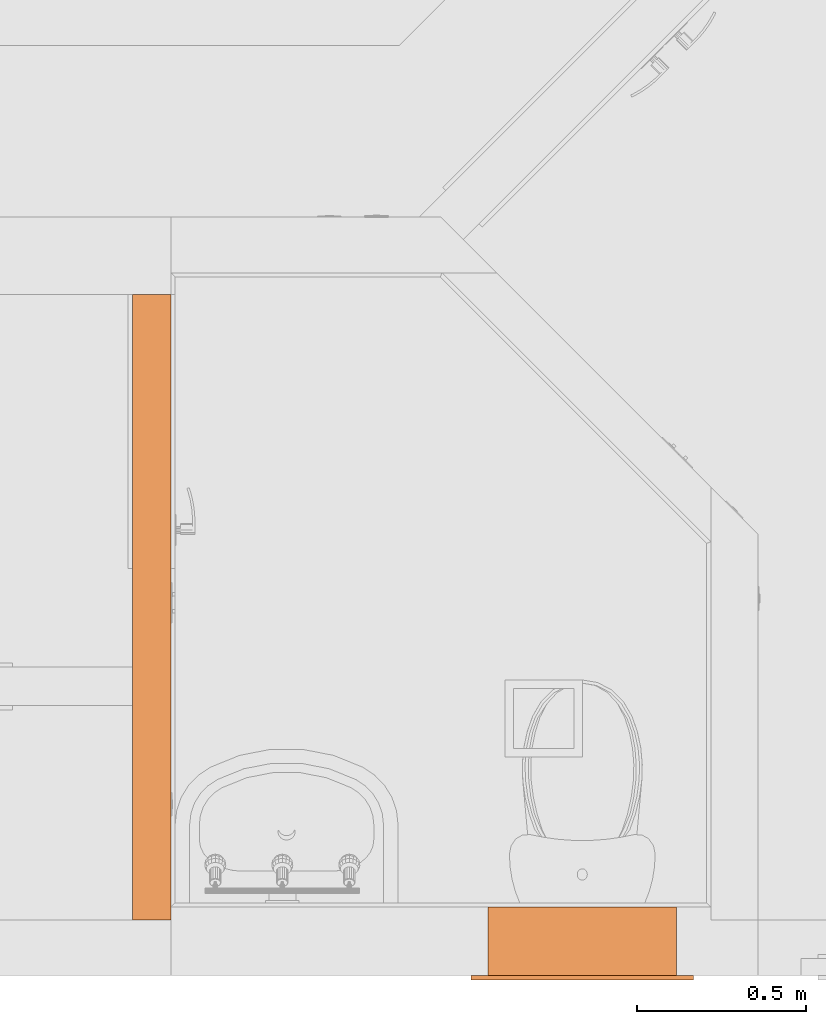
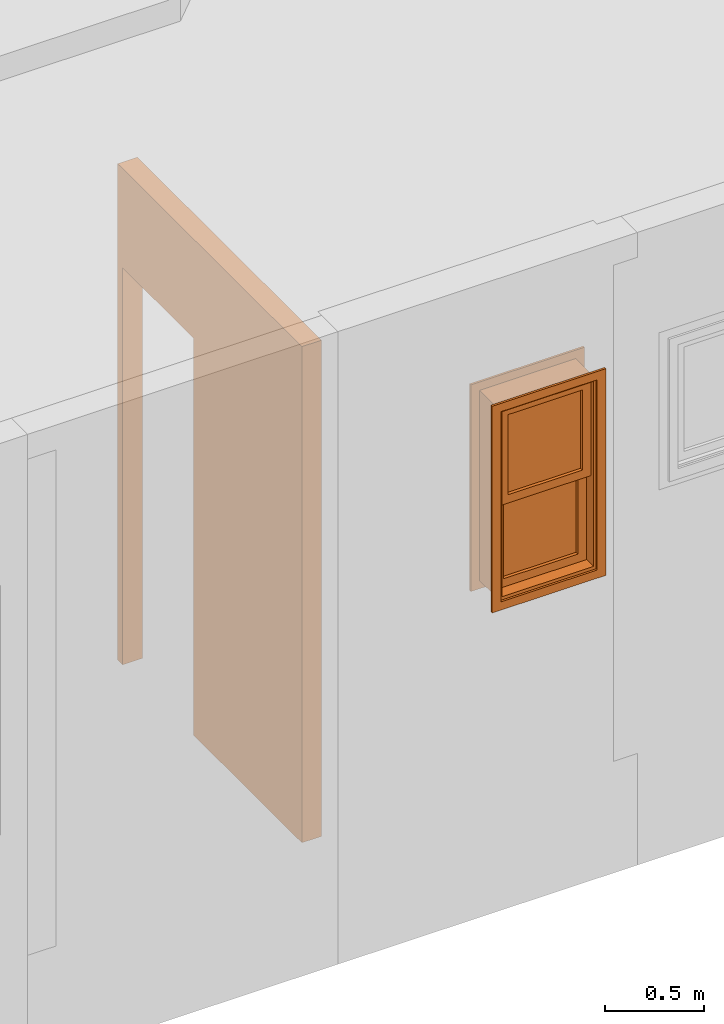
# One storey, part 80 of 103: 2 proxies.
"""IFC2X3 building model written with IfcOpenShell, lengths in inches."""

import ifcopenshell
import ifcopenshell.guid

model = None  # the IFC model being written
_history = None  # IfcOwnerHistory: only IFC2X3 demands one
_inside = {}  # id of a spatial element -> (the spatial element, [elements in it])
_under = {}  # id of a project, library or spatial element -> (it, [spatial elements below it])
_declared = {}  # id of a project -> (the project, [libraries it declares])
_typed = {}  # id of a type object -> (the type object, [elements of that type])
_made_of = {}  # id of a material, layer set ... -> (it, [elements and type objects made of it])


def new_model(schema):
    """Start an empty IFC model of exactly this schema.

    Asked for "IFC4X3", IfcOpenShell would pick the latest addendum, in which some entities
    have other attributes; the version numbers below select the first issue.
    IFC2X3 requires an IfcOwnerHistory on every rooted entity: one is made here for all.
    """
    global model, _history
    if schema == "IFC4X3":
        model = ifcopenshell.file(schema_version=(4, 3, 0, 0))
    else:
        model = ifcopenshell.file(schema=schema)
    _inside.clear()
    _under.clear()
    _declared.clear()
    _typed.clear()
    _made_of.clear()
    _history = None
    if model.schema == "IFC2X3":
        org = make("IfcOrganization", Name="unknown")
        user = make(
            "IfcPersonAndOrganization",
            ThePerson=make("IfcPerson", FamilyName="unknown"),
            TheOrganization=org,
        )
        app = make(
            "IfcApplication",
            ApplicationDeveloper=org,
            Version="unknown",
            ApplicationFullName="unknown",
            ApplicationIdentifier="unknown",
        )
        _history = make(
            "IfcOwnerHistory",
            OwningUser=user,
            OwningApplication=app,
            ChangeAction="ADDED",
            CreationDate=0,
        )
    return model


def make(cls, **values):
    """One entity of the class cls with the attributes given. An attribute that is None is left unset."""
    return model.create_entity(
        cls, **{name: value for name, value in values.items() if value is not None}
    )


def entity(cls, *values):
    """Any entity or typed value of the class cls, its attributes in the order of the schema. None: left unset."""
    e = model.create_entity(cls)
    for i, value in enumerate(values):
        if value is not None:
            e[i] = value
    return e


def rooted(cls, **values):
    """An entity with a GlobalId (a new one), such as an element, a storey or a relation."""
    return make(cls, GlobalId=ifcopenshell.guid.new(), OwnerHistory=_history, **values)


def si_unit(unit_type, name, prefix=None):
    """IfcSIUnit, for example si_unit("LENGTHUNIT", "METRE", prefix="MILLI")."""
    return make("IfcSIUnit", UnitType=unit_type, Prefix=prefix, Name=name)


def converted_unit(unit_type, name, factor, base, dimensions=None, offset=None):
    """IfcConversionBasedUnit, such as the inch: factor (a typed value) times the base unit."""
    return make(
        "IfcConversionBasedUnit"
        if offset is None
        else "IfcConversionBasedUnitWithOffset",
        ConversionOffset=offset,
        Dimensions=None
        if dimensions is None
        else entity("IfcDimensionalExponents", *dimensions),
        UnitType=unit_type,
        Name=name,
        ConversionFactor=make(
            "IfcMeasureWithUnit", ValueComponent=factor, UnitComponent=base
        ),
    )


def derived_unit(unit_type, elements):
    """IfcDerivedUnit: a product of units, each with its exponent."""
    return make(
        "IfcDerivedUnit",
        Elements=[
            make("IfcDerivedUnitElement", Unit=unit, Exponent=power)
            for unit, power in elements
        ],
        UnitType=unit_type,
    )


def money_unit(currency):
    """IfcMonetaryUnit."""
    return make("IfcMonetaryUnit", Currency=currency)


def assignment(units):
    """IfcUnitAssignment: the units of a project."""
    return None if units is None else make("IfcUnitAssignment", Units=units)


def point(xyz):
    """IfcCartesianPoint."""
    return None if xyz is None else make("IfcCartesianPoint", Coordinates=xyz)


def direction(xyz):
    """IfcDirection."""
    return None if xyz is None else make("IfcDirection", DirectionRatios=xyz)


def frame(location, z_axis=None, x_axis=None):
    """IfcAxis2Placement3D, a coordinate frame: its origin and axes. An axis left out is left unset."""
    return make(
        "IfcAxis2Placement3D",
        Location=point(location),
        Axis=direction(z_axis),
        RefDirection=direction(x_axis),
    )


def origin_with_axes():
    """The frame at (0, 0, 0) with the z axis (0, 0, 1) and the x axis (1, 0, 0) written out."""
    return frame((0.0, 0.0, 0.0), z_axis=(0.0, 0.0, 1.0), x_axis=(1.0, 0.0, 0.0))


def place(relative_to, where):
    """IfcLocalPlacement: puts the frame where relative to a parent placement (None: the world)."""
    return make(
        "IfcLocalPlacement", PlacementRelTo=relative_to, RelativePlacement=where
    )


def context(
    kind, dimensions, precision=None, world=None, true_north=None, identifier=None
):
    """IfcGeometricRepresentationContext, for example the 3D "Model" context."""
    return make(
        "IfcGeometricRepresentationContext",
        ContextIdentifier=identifier,
        ContextType=kind,
        CoordinateSpaceDimension=dimensions,
        Precision=precision,
        WorldCoordinateSystem=world,
        TrueNorth=true_north,
    )


def subcontext(parent, identifier, kind, view, scale=None):
    """IfcGeometricRepresentationSubContext, for example "Body" below "Model"."""
    return make(
        "IfcGeometricRepresentationSubContext",
        ContextIdentifier=identifier,
        ContextType=kind,
        ParentContext=parent,
        TargetScale=scale,
        TargetView=view,
    )


def project(units=None, contexts=None):
    """IfcProject with its units and contexts."""
    return rooted(
        "IfcProject",
        Name="project",
        RepresentationContexts=contexts,
        UnitsInContext=assignment(units),
    )


def spatial(cls, under=None, at=None, **own):
    """A site, building, storey or space (cls), placed at a placement, below another one or the project."""
    s = rooted(cls, ObjectPlacement=at, **own)
    if under is not None:
        _under.setdefault(under.id(), (under, []))[1].append(s)
    return s


def faces_of(points, faces, orient=None, outer=None):
    """IfcFace entities. A face is a list of loops; a loop is a list of indices into points, from 0.

    orient and outer hold one flag for each loop. By default every Orientation is true, the
    first loop of a face is its IfcFaceOuterBound and the others are IfcFaceBound.
    """
    made = []
    for i, loops in enumerate(faces):
        bounds = []
        for j, loop in enumerate(loops):
            is_outer = j == 0 if outer is None else outer[i][j]
            bounds.append(
                make(
                    "IfcFaceOuterBound" if is_outer else "IfcFaceBound",
                    Bound=make("IfcPolyLoop", Polygon=[points[k] for k in loop]),
                    Orientation=True if orient is None else orient[i][j],
                )
            )
        made.append(make("IfcFace", Bounds=bounds))
    return made


def faceted_brep(points, faces, orient=None, outer=None, voids=None):
    """IfcFacetedBrep: a solid bounded by flat faces; with voids (closed shells), ...WithVoids."""
    shared = [point(p) for p in points]
    hull = make("IfcClosedShell", CfsFaces=faces_of(shared, faces, orient, outer))
    if voids is None:
        return make("IfcFacetedBrep", Outer=hull)
    return make(
        "IfcFacetedBrepWithVoids",
        Outer=hull,
        Voids=[
            make(cls, CfsFaces=faces_of(shared, fs, o, b)) for cls, fs, o, b in voids
        ],
    )


def shape(context_of_items, identifier, shape_type, items):
    """IfcShapeRepresentation: the items that make up one representation, for example the "Body"."""
    return make(
        "IfcShapeRepresentation",
        ContextOfItems=context_of_items,
        RepresentationIdentifier=identifier,
        RepresentationType=shape_type,
        Items=items,
    )


def material(Name=None, Category=None):
    """IfcMaterial."""
    return make("IfcMaterial", Name=Name, Category=Category)


def made_of(thing, what):
    """Note that an element or type object is made of a material, layer set ...; save() writes the relation."""
    if what is not None:
        _made_of.setdefault(what.id(), (what, []))[1].append(thing)
    return thing


def type_object(cls, material=None, **own):
    """A type object (cls), such as IfcWallType, which elements share."""
    return made_of(rooted(cls, **own), material)


def element(
    cls,
    number,
    at=None,
    inside=None,
    cuts=None,
    type_object=None,
    material=None,
    context=None,
    identifier="Body",
    shape_type=None,
    held_by="IfcProductDefinitionShape",
    body=None,
    shapes=None,
    **own,
):
    """One element of the class cls, such as IfcWall. Its Tag is "e" and its number.

    at: its placement. inside: the storey or other place that contains it. cuts: it is an
    opening in that element (IfcRelVoidsElement). A single representation is given by context,
    identifier, shape_type and body (its items); several are given by shapes. held_by: the class
    of the entity that holds the representations. save() writes the other relations.
    """
    e = rooted(cls, Tag="e%d" % number, ObjectPlacement=at, **own)
    if body is not None:
        shapes = [shape(context, identifier, shape_type, body)]
    if shapes is not None:
        e.Representation = make(held_by, Representations=shapes)
    if inside is not None:
        _inside.setdefault(inside.id(), (inside, []))[1].append(e)
    if cuts is not None:
        rooted(
            "IfcRelVoidsElement", RelatingBuildingElement=cuts, RelatedOpeningElement=e
        )
    if type_object is not None:
        _typed.setdefault(type_object.id(), (type_object, []))[1].append(e)
    return made_of(e, material)


def aggregate(whole, parts):
    """IfcRelAggregates: a whole, such as a stair, and the parts it consists of."""
    return rooted("IfcRelAggregates", RelatingObject=whole, RelatedObjects=parts)


def save(model, path):
    """Write the relations noted so far, then the file.

    IfcRelAggregates (storeys below a building ...), IfcRelContainedInSpatialStructure (elements
    in a storey), IfcRelDefinesByType, IfcRelAssociatesMaterial and IfcRelDeclares: one each for
    every whole, place, type object, material and project.
    """
    for whole, parts in _under.values():
        aggregate(whole, parts)
    for where, things in _inside.values():
        rooted(
            "IfcRelContainedInSpatialStructure",
            RelatedElements=things,
            RelatingStructure=where,
        )
    for kind, things in _typed.values():
        rooted("IfcRelDefinesByType", RelatedObjects=things, RelatingType=kind)
    for what, things in _made_of.values():
        rooted("IfcRelAssociatesMaterial", RelatedObjects=things, RelatingMaterial=what)
    for by, libraries in _declared.values():
        rooted("IfcRelDeclares", RelatingContext=by, RelatedDefinitions=libraries)
    model.write(path)


model = new_model("IFC2X3")

# Units and contexts
model_context = context("Model", 3, precision=0.00039370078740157, world=origin_with_axes(), true_north=direction((0.0, 1.0)))
plan_context = context("Plan", 3, precision=0.00039370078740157, world=origin_with_axes(), true_north=direction((0.0, 1.0)))
body_context = subcontext(model_context, "Body", "Model", "MODEL_VIEW")
ifc_project = project(units=[converted_unit("LENGTHUNIT", "INCH", entity("IfcPositiveLengthMeasure", 0.0254), si_unit("LENGTHUNIT", "METRE"), dimensions=[1, 0, 0, 0, 0, 0, 0]), converted_unit("AREAUNIT", "SQUARE_FOOT", entity("IfcPositiveLengthMeasure", 0.09290304), si_unit("AREAUNIT", "SQUARE_METRE"), dimensions=[2, 0, 0, 0, 0, 0, 0]), si_unit("PLANEANGLEUNIT", "RADIAN"), si_unit("SOLIDANGLEUNIT", "STERADIAN"), money_unit("USD"), converted_unit("TIMEUNIT", "Year", entity("IfcTimeMeasure", 31557600.0), si_unit("TIMEUNIT", "SECOND"), dimensions=[0, 0, 1, 0, 0, 0, 0]), si_unit("MASSUNIT", "GRAM", prefix="KILO"), si_unit("THERMODYNAMICTEMPERATUREUNIT", "DEGREE_CELSIUS"), si_unit("LUMINOUSINTENSITYUNIT", "LUMEN"), si_unit("ENERGYUNIT", "JOULE", prefix="MEGA"), derived_unit("SPECIFICHEATCAPACITYUNIT", [(si_unit("ENERGYUNIT", "JOULE"), 1), (si_unit("MASSUNIT", "GRAM", prefix="KILO"), -1), (si_unit("THERMODYNAMICTEMPERATUREUNIT", "KELVIN"), -1)])], contexts=[model_context, plan_context])

# Site, building, storey
site_placement = place(None, origin_with_axes())
site = spatial("IfcSite", under=ifc_project, at=site_placement, Name="Site", CompositionType="ELEMENT")
building_placement = place(site_placement, origin_with_axes())
building = spatial("IfcBuilding", under=site, at=building_placement, Name="Building", CompositionType="ELEMENT")
storey_placement = place(building_placement, frame((0.0, 0.0, 127.9999999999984), z_axis=(0.0, 0.0, 1.0), x_axis=(1.0, 0.0, 0.0)))
storey = spatial("IfcBuildingStorey", under=building, at=storey_placement, Name="Second Floor", CompositionType="ELEMENT", Elevation=128.0)

# Proxies
ifc_material = material(Name="Generic - Structural")
building_element_proxy_type_1 = type_object("IfcBuildingElementProxyType", Name="Generic - Structural 4 1/2\"", PredefinedType="NOTDEFINED")
proxy_1_placement = place(storey_placement, frame((315.499999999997, 6.499999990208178, 0.0), z_axis=(0.0, 0.0, 1.0), x_axis=(0.0, 1.0, 0.0)))
element("IfcBuildingElementProxy", 1, at=proxy_1_placement, inside=storey, type_object=building_element_proxy_type_1, material=ifc_material, Name="SW - 082", context=body_context, shape_type="Brep", body=[
    faceted_brep([(43.00000000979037, 0.0, 0.0), (43.00000000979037, 0.0, 95.9999999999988), (71.00000000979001, 0.0, 95.9999999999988), (71.00000000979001, 0.0, 0.0), (73.00000000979, 0.0, 0.0), (73.00000000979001, 0.0, 119.9999999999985), (0.0, 0.0, 119.9999999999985), (0.0, 0.0, 0.0), (43.00000000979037, 4.499999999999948, 0.0), (43.00000000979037, 4.499999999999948, 95.9999999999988), (71.00000000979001, 4.499999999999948, 95.9999999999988), (71.00000000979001, 4.499999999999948, 0.0), (73.00000000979, 4.499999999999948, 0.0), (73.00000000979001, 4.499999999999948, 119.9999999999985), (9.790545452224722e-09, 4.499999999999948, 119.9999999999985), (9.790545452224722e-09, 4.499999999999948, 0.0)], [[[0, 1, 2, 3, 4, 5, 6, 7]], [[1, 0, 8, 9]], [[2, 1, 9, 10]], [[3, 2, 10, 11]], [[3, 11, 12, 4]], [[13, 5, 4, 12]], [[5, 13, 14, 6]], [[7, 6, 14, 15]], [[8, 0, 7, 15]], [[9, 8, 15, 14, 13, 12, 11, 10]]]),
])
building_element_proxy_type_2 = type_object("IfcBuildingElementProxyType", Name="W Double Hung", PredefinedType="NOTDEFINED")
proxy_2_placement = place(storey_placement, frame((352.4999999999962, 7.999999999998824, 47.9999999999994), z_axis=(0.0, 0.0, 1.0), x_axis=(1.0, 0.0, 0.0)))
element("IfcBuildingElementProxy", 2, at=proxy_2_placement, inside=storey, type_object=building_element_proxy_type_2, Name="WD - 002", context=body_context, shape_type="Brep", body=[
    faceted_brep([(0.0, -3.499999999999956, 0.0), (0.0, 0.0, 0.0), (21.99999999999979, 0.0, 0.0), (21.99999999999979, -3.499999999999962, 0.0), (0.0, -3.499999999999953, 45.99999999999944), (0.0, 0.0, 45.99999999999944), (21.99999999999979, 0.0, 45.99999999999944), (0.5000000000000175, 0.0, 0.4999999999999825), (21.49999999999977, 0.0, 0.4999999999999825), (21.49999999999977, 0.0, 45.49999999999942), (0.5000000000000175, 0.0, 45.49999999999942), (21.99999999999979, -3.499999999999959, 45.99999999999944), (0.5000000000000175, -3.499999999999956, 0.4999999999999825), (0.5000000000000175, -3.499999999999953, 45.49999999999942), (21.49999999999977, -3.499999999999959, 45.49999999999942), (21.49999999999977, -3.499999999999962, 0.4999999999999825)], [[[0, 1, 2, 3]], [[4, 5, 1, 0]], [[1, 5, 6, 2], [7, 8, 9, 10]], [[3, 2, 6, 11]], [[0, 3, 11, 4], [12, 13, 14, 15]], [[11, 6, 5, 4]], [[15, 8, 7, 12]], [[14, 9, 8, 15]], [[13, 10, 9, 14]], [[12, 7, 10, 13]]]),
    faceted_brep([(-1.99999999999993, 0.4999999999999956, -1.999999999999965), (0.0, 0.4999999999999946, 0.0), (0.0, 0.0, 0.0), (-1.99999999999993, 0.0, -1.999999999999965), (-1.99999999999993, 0.4999999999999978, 47.9999999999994), (0.0, 0.4999999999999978, 45.99999999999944), (0.0, 0.0, 45.99999999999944), (-1.99999999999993, 0.0, 47.9999999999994)], [[[0, 1, 2, 3]], [[0, 4, 5, 1]], [[1, 5, 6, 2]], [[3, 2, 6, 7]], [[4, 0, 3, 7]], [[5, 4, 7, 6]]]),
    faceted_brep([(23.99999999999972, 0.4999999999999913, 47.9999999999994), (21.99999999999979, 0.4999999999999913, 45.99999999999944), (21.99999999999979, 0.0, 45.99999999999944), (23.99999999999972, 0.0, 47.9999999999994), (23.99999999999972, 0.4999999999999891, -1.999999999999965), (21.99999999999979, 0.4999999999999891, 0.0), (21.99999999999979, 0.0, 0.0), (23.99999999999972, 0.0, -1.999999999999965)], [[[0, 1, 2, 3]], [[0, 4, 5, 1]], [[1, 5, 6, 2]], [[3, 2, 6, 7]], [[4, 0, 3, 7]], [[5, 4, 7, 6]]]),
    faceted_brep([(23.99999999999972, 0.4999999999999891, -1.999999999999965), (21.99999999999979, 0.4999999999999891, 0.0), (21.99999999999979, 0.0, 0.0), (23.99999999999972, 0.0, -1.999999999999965), (-1.99999999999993, 0.4999999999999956, -1.999999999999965), (0.0, 0.4999999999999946, 0.0), (0.0, 0.0, 0.0), (-1.99999999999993, 0.0, -1.999999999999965)], [[[0, 1, 2, 3]], [[0, 4, 5, 1]], [[1, 5, 6, 2]], [[3, 2, 6, 7]], [[4, 0, 3, 7]], [[5, 4, 7, 6]]]),
    faceted_brep([(-1.99999999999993, 0.4999999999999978, 47.9999999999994), (0.0, 0.4999999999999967, 45.99999999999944), (0.0, 0.0, 45.99999999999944), (-1.99999999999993, 0.0, 47.9999999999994), (23.99999999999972, 0.4999999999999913, 47.9999999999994), (21.99999999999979, 0.4999999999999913, 45.99999999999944), (21.99999999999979, 0.0, 45.99999999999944), (23.99999999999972, 0.0, 47.9999999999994)], [[[0, 1, 2, 3]], [[0, 4, 5, 1]], [[1, 5, 6, 2]], [[3, 2, 6, 7]], [[4, 0, 3, 7]], [[5, 4, 7, 6]]]),
    faceted_brep([(-1.99999999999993, -8.499999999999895, -1.999999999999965), (-1.99999999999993, -7.999999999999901, -1.999999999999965), (0.0, -7.999999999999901, 0.0), (0.0, -8.499999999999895, 0.0), (-1.99999999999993, -8.499999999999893, 47.9999999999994), (-1.99999999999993, -7.999999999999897, 47.9999999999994), (0.0, -7.999999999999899, 45.99999999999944), (0.0, -8.499999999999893, 45.99999999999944)], [[[0, 1, 2, 3]], [[4, 5, 1, 0]], [[1, 5, 6, 2]], [[3, 2, 6, 7]], [[0, 3, 7, 4]], [[7, 6, 5, 4]]]),
    faceted_brep([(23.99999999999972, -8.499999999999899, 47.9999999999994), (23.99999999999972, -7.999999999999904, 47.9999999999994), (21.99999999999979, -7.999999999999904, 45.99999999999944), (21.99999999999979, -8.499999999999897, 45.99999999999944), (23.99999999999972, -8.499999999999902, -1.999999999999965), (23.99999999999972, -7.999999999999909, -1.999999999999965), (21.99999999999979, -7.999999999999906, 0.0), (21.99999999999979, -8.499999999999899, 0.0)], [[[0, 1, 2, 3]], [[4, 5, 1, 0]], [[1, 5, 6, 2]], [[3, 2, 6, 7]], [[0, 3, 7, 4]], [[7, 6, 5, 4]]]),
    faceted_brep([(23.99999999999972, -8.499999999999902, -1.999999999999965), (23.99999999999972, -7.999999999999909, -1.999999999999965), (21.99999999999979, -7.999999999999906, 0.0), (21.99999999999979, -8.499999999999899, 0.0), (-1.99999999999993, -8.499999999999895, -1.999999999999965), (-1.99999999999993, -7.999999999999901, -1.999999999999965), (0.0, -7.999999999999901, 0.0), (0.0, -8.499999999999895, 0.0)], [[[0, 1, 2, 3]], [[4, 5, 1, 0]], [[1, 5, 6, 2]], [[3, 2, 6, 7]], [[0, 3, 7, 4]], [[7, 6, 5, 4]]]),
    faceted_brep([(-1.99999999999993, -8.499999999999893, 47.9999999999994), (-1.99999999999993, -7.999999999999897, 47.9999999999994), (0.0, -7.999999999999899, 45.99999999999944), (0.0, -8.499999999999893, 45.99999999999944), (23.99999999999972, -8.499999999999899, 47.9999999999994), (23.99999999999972, -7.999999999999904, 47.9999999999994), (21.99999999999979, -7.999999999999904, 45.99999999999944), (21.99999999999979, -8.499999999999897, 45.99999999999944)], [[[0, 1, 2, 3]], [[4, 5, 1, 0]], [[1, 5, 6, 2]], [[3, 2, 6, 7]], [[0, 3, 7, 4]], [[7, 6, 5, 4]]]),
    faceted_brep([(0.4996062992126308, -7.999999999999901, 0.7539370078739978), (0.4996062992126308, -7.999999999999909, 45.49606299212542), (0.0, -7.999999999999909, 45.49606299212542), (0.0, -7.999999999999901, 0.7539370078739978), (0.4996062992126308, -3.499999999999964, 45.49606299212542), (0.4996062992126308, -3.499999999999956, 0.7539370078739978), (0.0, -3.499999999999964, 45.49606299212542), (0.0, -3.499999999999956, 0.7539370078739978)], [[[0, 1, 2, 3]], [[4, 1, 0, 5]], [[1, 4, 6, 2]], [[6, 7, 3, 2]], [[5, 0, 3, 7]], [[4, 5, 7, 6]]]),
    faceted_brep([(21.50039370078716, -3.49999999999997, 45.49606299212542), (21.50039370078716, -7.999999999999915, 45.49606299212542), (21.99999999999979, -7.999999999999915, 45.49606299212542), (21.99999999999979, -3.49999999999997, 45.49606299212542), (21.50039370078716, -7.999999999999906, 0.7539370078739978), (21.50039370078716, -3.499999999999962, 0.7539370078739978), (21.99999999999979, -7.999999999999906, 0.7539370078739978), (21.99999999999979, -3.499999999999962, 0.7539370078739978)], [[[0, 1, 2, 3]], [[4, 1, 0, 5]], [[1, 4, 6, 2]], [[7, 3, 2, 6]], [[5, 0, 3, 7]], [[4, 5, 7, 6]]]),
    faceted_brep([(21.50039370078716, -3.499999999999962, 0.7539370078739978), (21.50039370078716, -7.999999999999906, 0.7539370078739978), (21.99999999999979, -7.999999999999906, 0.7539370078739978), (21.99999999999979, -3.499999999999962, 0.7539370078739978), (21.50039370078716, -7.999999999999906, 0.7496062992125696), (21.50039370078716, -3.499999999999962, 0.7496062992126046), (0.4996062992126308, -7.999999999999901, 0.7496062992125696), (0.4996062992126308, -7.999999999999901, 0.7539370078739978), (0.0, -7.999999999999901, 0.7539370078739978), (0.0, -7.999999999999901, 0.0), (21.99999999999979, -7.999999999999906, 0.0), (21.99999999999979, -3.499999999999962, 0.0), (0.0, -3.499999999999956, 0.0), (0.0, -3.499999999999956, 0.7539370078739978), (0.4996062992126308, -3.499999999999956, 0.7539370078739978), (0.4996062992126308, -3.499999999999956, 0.7496062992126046)], [[[0, 1, 2, 3]], [[4, 1, 0, 5]], [[6, 7, 8, 9, 10, 2, 1, 4]], [[11, 3, 2, 10]], [[5, 0, 3, 11, 12, 13, 14, 15]], [[6, 4, 5, 15]], [[14, 7, 6, 15]], [[7, 14, 13, 8]], [[13, 12, 9, 8]], [[12, 11, 10, 9]]]),
    faceted_brep([(0.4996062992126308, -7.999999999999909, 45.49606299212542), (0.4996062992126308, -7.999999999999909, 45.50039370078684), (21.50039370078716, -7.999999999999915, 45.50039370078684), (21.50039370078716, -7.999999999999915, 45.49606299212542), (21.99999999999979, -7.999999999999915, 45.49606299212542), (21.99999999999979, -7.999999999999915, 45.99999999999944), (0.0, -7.999999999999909, 45.99999999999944), (0.0, -7.999999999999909, 45.49606299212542), (0.4996062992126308, -3.499999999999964, 45.49606299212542), (0.4996062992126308, -3.499999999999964, 45.50039370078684), (21.50039370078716, -3.49999999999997, 45.50039370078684), (21.50039370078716, -3.49999999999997, 45.49606299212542), (21.99999999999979, -3.49999999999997, 45.49606299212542), (21.99999999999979, -3.49999999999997, 45.99999999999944), (0.0, -3.499999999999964, 45.99999999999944), (0.0, -3.499999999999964, 45.49606299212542)], [[[0, 1, 2, 3, 4, 5, 6, 7]], [[1, 0, 8, 9]], [[2, 1, 9, 10]], [[3, 2, 10, 11]], [[3, 11, 12, 4]], [[12, 13, 5, 4]], [[13, 14, 6, 5]], [[14, 15, 7, 6]], [[8, 0, 7, 15]], [[9, 8, 15, 14, 13, 12, 11, 10]]]),
    faceted_brep([(2.500000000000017, -3.499999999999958, 2.749999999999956), (2.500000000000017, -3.499999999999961, 22.12499999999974), (2.500000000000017, -4.374999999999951, 22.12499999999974), (2.500000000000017, -4.374999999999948, 2.749999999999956), (0.5000000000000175, -3.499999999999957, 2.749999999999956), (0.5000000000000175, -3.499999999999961, 22.12499999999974), (0.5000000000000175, -4.37499999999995, 22.12499999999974), (0.5000000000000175, -4.374999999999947, 2.749999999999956)], [[[0, 1, 2, 3]], [[0, 4, 5, 1]], [[1, 5, 6, 2]], [[3, 2, 6, 7]], [[4, 0, 3, 7]], [[5, 4, 7, 6]]]),
    faceted_brep([(21.49999999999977, -3.499999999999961, 2.749999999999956), (21.49999999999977, -3.499999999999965, 22.12499999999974), (21.49999999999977, -4.374999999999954, 22.12499999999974), (21.49999999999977, -4.374999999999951, 2.749999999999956), (19.49999999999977, -3.499999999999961, 2.749999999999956), (19.49999999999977, -3.499999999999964, 22.12499999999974), (19.49999999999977, -4.374999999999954, 22.12499999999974), (19.49999999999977, -4.37499999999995, 2.749999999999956)], [[[0, 1, 2, 3]], [[0, 4, 5, 1]], [[1, 5, 6, 2]], [[3, 2, 6, 7]], [[4, 0, 3, 7]], [[5, 4, 7, 6]]]),
    faceted_brep([(21.49999999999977, -3.499999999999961, 0.7499999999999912), (21.49999999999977, -3.499999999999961, 2.749999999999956), (21.49999999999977, -4.374999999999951, 2.749999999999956), (21.49999999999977, -4.37499999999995, 0.7499999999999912), (0.5000000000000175, -3.499999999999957, 0.7499999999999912), (0.5000000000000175, -3.499999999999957, 2.749999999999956), (2.500000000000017, -3.499999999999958, 2.749999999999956), (9.99999999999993, -3.49999999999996, 2.749999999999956), (11.99999999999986, -3.49999999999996, 2.749999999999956), (19.49999999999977, -3.499999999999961, 2.749999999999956), (19.49999999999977, -4.37499999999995, 2.749999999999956), (11.99999999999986, -4.374999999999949, 2.749999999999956), (9.99999999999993, -4.374999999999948, 2.749999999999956), (2.500000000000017, -4.374999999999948, 2.749999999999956), (0.5000000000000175, -4.374999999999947, 2.749999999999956), (0.5000000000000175, -4.374999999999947, 0.7499999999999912)], [[[0, 1, 2, 3]], [[0, 4, 5, 6, 7, 8, 9, 1]], [[1, 9, 10, 2]], [[3, 2, 10, 11, 12, 13, 14, 15]], [[4, 0, 3, 15]], [[5, 4, 15, 14]], [[6, 5, 14, 13]], [[7, 6, 13, 12]], [[8, 7, 12, 11]], [[9, 8, 11, 10]]]),
    faceted_brep([(0.5000000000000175, -3.499999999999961, 24.12499999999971), (0.5000000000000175, -3.499999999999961, 22.12499999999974), (0.5000000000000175, -4.37499999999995, 22.12499999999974), (0.5000000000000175, -4.374999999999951, 24.12499999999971), (21.49999999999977, -3.499999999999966, 24.12499999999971), (21.49999999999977, -3.499999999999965, 22.12499999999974), (19.49999999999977, -3.499999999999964, 22.12499999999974), (11.99999999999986, -3.499999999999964, 22.12499999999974), (9.99999999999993, -3.499999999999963, 22.12499999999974), (2.500000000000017, -3.499999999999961, 22.12499999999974), (2.500000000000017, -4.374999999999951, 22.12499999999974), (9.99999999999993, -4.374999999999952, 22.12499999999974), (11.99999999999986, -4.374999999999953, 22.12499999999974), (19.49999999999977, -4.374999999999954, 22.12499999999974), (21.49999999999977, -4.374999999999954, 22.12499999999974), (21.49999999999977, -4.374999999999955, 24.12499999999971)], [[[0, 1, 2, 3]], [[0, 4, 5, 6, 7, 8, 9, 1]], [[1, 9, 10, 2]], [[3, 2, 10, 11, 12, 13, 14, 15]], [[4, 0, 3, 15]], [[5, 4, 15, 14]], [[6, 5, 14, 13]], [[7, 6, 13, 12]], [[8, 7, 12, 11]], [[9, 8, 11, 10]]]),
    faceted_brep([(2.500000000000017, -4.374999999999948, 2.749999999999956), (2.500000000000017, -4.374999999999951, 22.12499999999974), (2.500000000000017, -5.24999999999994, 22.12499999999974), (2.500000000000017, -5.249999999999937, 2.749999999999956), (0.5000000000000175, -4.374999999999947, 2.749999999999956), (0.5000000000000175, -4.37499999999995, 22.12499999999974), (0.5000000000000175, -5.24999999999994, 22.12499999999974), (0.5000000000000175, -5.249999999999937, 2.749999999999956)], [[[0, 1, 2, 3]], [[0, 4, 5, 1]], [[1, 5, 6, 2]], [[3, 2, 6, 7]], [[4, 0, 3, 7]], [[5, 4, 7, 6]]]),
    faceted_brep([(21.49999999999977, -4.374999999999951, 2.749999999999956), (21.49999999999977, -4.374999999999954, 22.12499999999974), (21.49999999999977, -5.249999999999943, 22.12499999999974), (21.49999999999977, -5.24999999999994, 2.749999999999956), (19.49999999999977, -4.37499999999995, 2.749999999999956), (19.49999999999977, -4.374999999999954, 22.12499999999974), (19.49999999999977, -5.249999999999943, 22.12499999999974), (19.49999999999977, -5.24999999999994, 2.749999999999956)], [[[0, 1, 2, 3]], [[0, 4, 5, 1]], [[1, 5, 6, 2]], [[3, 2, 6, 7]], [[4, 0, 3, 7]], [[5, 4, 7, 6]]]),
    faceted_brep([(21.49999999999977, -4.37499999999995, 0.7499999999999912), (21.49999999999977, -4.374999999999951, 2.749999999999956), (21.49999999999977, -5.24999999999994, 2.749999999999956), (21.49999999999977, -5.24999999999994, 0.7499999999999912), (0.5000000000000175, -4.374999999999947, 0.7499999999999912), (0.5000000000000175, -4.374999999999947, 2.749999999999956), (2.500000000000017, -4.374999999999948, 2.749999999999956), (9.99999999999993, -4.374999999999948, 2.749999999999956), (11.99999999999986, -4.374999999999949, 2.749999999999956), (19.49999999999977, -4.37499999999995, 2.749999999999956), (19.49999999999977, -5.24999999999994, 2.749999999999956), (11.99999999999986, -5.249999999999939, 2.749999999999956), (9.99999999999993, -5.249999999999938, 2.749999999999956), (2.500000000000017, -5.249999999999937, 2.749999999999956), (0.5000000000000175, -5.249999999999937, 2.749999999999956), (0.5000000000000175, -5.249999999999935, 0.7499999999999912)], [[[0, 1, 2, 3]], [[0, 4, 5, 6, 7, 8, 9, 1]], [[1, 9, 10, 2]], [[3, 2, 10, 11, 12, 13, 14, 15]], [[4, 0, 3, 15]], [[5, 4, 15, 14]], [[6, 5, 14, 13]], [[7, 6, 13, 12]], [[8, 7, 12, 11]], [[9, 8, 11, 10]]]),
    faceted_brep([(0.5000000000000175, -4.374999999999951, 24.12499999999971), (0.5000000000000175, -4.37499999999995, 22.12499999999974), (0.5000000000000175, -5.24999999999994, 22.12499999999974), (0.5000000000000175, -5.24999999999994, 24.12499999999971), (21.49999999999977, -4.374999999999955, 24.12499999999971), (21.49999999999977, -4.374999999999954, 22.12499999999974), (19.49999999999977, -4.374999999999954, 22.12499999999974), (11.99999999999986, -4.374999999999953, 22.12499999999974), (9.99999999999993, -4.374999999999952, 22.12499999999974), (2.500000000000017, -4.374999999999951, 22.12499999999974), (2.500000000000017, -5.24999999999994, 22.12499999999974), (9.99999999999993, -5.249999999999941, 22.12499999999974), (11.99999999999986, -5.249999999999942, 22.12499999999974), (19.49999999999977, -5.249999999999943, 22.12499999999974), (21.49999999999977, -5.249999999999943, 22.12499999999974), (21.49999999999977, -5.249999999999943, 24.12499999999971)], [[[0, 1, 2, 3]], [[0, 4, 5, 6, 7, 8, 9, 1]], [[1, 9, 10, 2]], [[3, 2, 10, 11, 12, 13, 14, 15]], [[4, 0, 3, 15]], [[5, 4, 15, 14]], [[6, 5, 14, 13]], [[7, 6, 13, 12]], [[8, 7, 12, 11]], [[9, 8, 11, 10]]]),
    faceted_brep([(2.500000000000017, -4.249999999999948, 2.749999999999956), (19.49999999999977, -4.249999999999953, 2.749999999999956), (19.49999999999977, -4.499999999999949, 2.749999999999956), (2.500000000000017, -4.499999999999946, 2.749999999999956), (2.500000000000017, -4.249999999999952, 22.12499999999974), (19.49999999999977, -4.249999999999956, 22.12499999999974), (19.49999999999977, -4.499999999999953, 22.12499999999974), (2.500000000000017, -4.499999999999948, 22.12499999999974)], [[[0, 1, 2, 3]], [[0, 4, 5, 1]], [[1, 5, 6, 2]], [[3, 2, 6, 7]], [[4, 0, 3, 7]], [[5, 4, 7, 6]]]),
    faceted_brep([(2.500000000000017, -5.24999999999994, 24.12499999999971), (2.500000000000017, -5.249999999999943, 43.49999999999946), (2.500000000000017, -6.124999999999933, 43.49999999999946), (2.500000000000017, -6.12499999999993, 24.12499999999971), (0.5000000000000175, -5.24999999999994, 24.12499999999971), (0.5000000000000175, -5.249999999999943, 43.49999999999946), (0.5000000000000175, -6.124999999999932, 43.49999999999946), (0.5000000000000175, -6.12499999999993, 24.12499999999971)], [[[0, 1, 2, 3]], [[0, 4, 5, 1]], [[1, 5, 6, 2]], [[3, 2, 6, 7]], [[4, 0, 3, 7]], [[5, 4, 7, 6]]]),
    faceted_brep([(21.49999999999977, -5.249999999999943, 24.12499999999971), (21.49999999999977, -5.249999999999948, 43.49999999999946), (21.49999999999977, -6.124999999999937, 43.49999999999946), (21.49999999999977, -6.124999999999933, 24.12499999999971), (19.49999999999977, -5.249999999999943, 24.12499999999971), (19.49999999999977, -5.249999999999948, 43.49999999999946), (19.49999999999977, -6.124999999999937, 43.49999999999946), (19.49999999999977, -6.124999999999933, 24.12499999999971)], [[[0, 1, 2, 3]], [[0, 4, 5, 1]], [[1, 5, 6, 2]], [[3, 2, 6, 7]], [[4, 0, 3, 7]], [[5, 4, 7, 6]]]),
    faceted_brep([(21.49999999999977, -5.249999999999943, 22.12499999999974), (21.49999999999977, -5.249999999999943, 24.12499999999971), (21.49999999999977, -6.124999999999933, 24.12499999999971), (21.49999999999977, -6.124999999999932, 22.12499999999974), (0.5000000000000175, -5.24999999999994, 22.12499999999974), (0.5000000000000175, -5.24999999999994, 24.12499999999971), (2.500000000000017, -5.24999999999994, 24.12499999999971), (9.99999999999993, -5.249999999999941, 24.12499999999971), (11.99999999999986, -5.249999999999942, 24.12499999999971), (19.49999999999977, -5.249999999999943, 24.12499999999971), (19.49999999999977, -6.124999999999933, 24.12499999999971), (11.99999999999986, -6.124999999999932, 24.12499999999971), (9.99999999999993, -6.124999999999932, 24.12499999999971), (2.500000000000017, -6.12499999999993, 24.12499999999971), (0.5000000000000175, -6.12499999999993, 24.12499999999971), (0.5000000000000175, -6.124999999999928, 22.12499999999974)], [[[0, 1, 2, 3]], [[0, 4, 5, 6, 7, 8, 9, 1]], [[1, 9, 10, 2]], [[3, 2, 10, 11, 12, 13, 14, 15]], [[4, 0, 3, 15]], [[5, 4, 15, 14]], [[6, 5, 14, 13]], [[7, 6, 13, 12]], [[8, 7, 12, 11]], [[9, 8, 11, 10]]]),
    faceted_brep([(0.5000000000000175, -5.249999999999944, 45.49999999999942), (0.5000000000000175, -5.249999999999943, 43.49999999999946), (0.5000000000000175, -6.124999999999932, 43.49999999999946), (0.5000000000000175, -6.124999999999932, 45.49999999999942), (21.49999999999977, -5.249999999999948, 45.49999999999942), (21.49999999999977, -5.249999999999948, 43.49999999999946), (19.49999999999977, -5.249999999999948, 43.49999999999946), (11.99999999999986, -5.249999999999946, 43.49999999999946), (9.99999999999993, -5.249999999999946, 43.49999999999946), (2.500000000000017, -5.249999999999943, 43.49999999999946), (2.500000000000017, -6.124999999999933, 43.49999999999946), (9.99999999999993, -6.124999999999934, 43.49999999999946), (11.99999999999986, -6.124999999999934, 43.49999999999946), (19.49999999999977, -6.124999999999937, 43.49999999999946), (21.49999999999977, -6.124999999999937, 43.49999999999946), (21.49999999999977, -6.124999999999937, 45.49999999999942)], [[[0, 1, 2, 3]], [[0, 4, 5, 6, 7, 8, 9, 1]], [[1, 9, 10, 2]], [[3, 2, 10, 11, 12, 13, 14, 15]], [[4, 0, 3, 15]], [[5, 4, 15, 14]], [[6, 5, 14, 13]], [[7, 6, 13, 12]], [[8, 7, 12, 11]], [[9, 8, 11, 10]]]),
    faceted_brep([(2.500000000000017, -6.12499999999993, 24.12499999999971), (2.500000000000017, -6.124999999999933, 43.49999999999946), (2.500000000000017, -6.999999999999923, 43.49999999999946), (2.500000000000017, -6.999999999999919, 24.12499999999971), (0.5000000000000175, -6.12499999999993, 24.12499999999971), (0.5000000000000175, -6.124999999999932, 43.49999999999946), (0.5000000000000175, -6.999999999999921, 43.49999999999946), (0.5000000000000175, -6.999999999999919, 24.12499999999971)], [[[0, 1, 2, 3]], [[0, 4, 5, 1]], [[1, 5, 6, 2]], [[3, 2, 6, 7]], [[4, 0, 3, 7]], [[5, 4, 7, 6]]]),
    faceted_brep([(21.49999999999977, -6.124999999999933, 24.12499999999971), (21.49999999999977, -6.124999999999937, 43.49999999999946), (21.49999999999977, -6.999999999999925, 43.49999999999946), (21.49999999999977, -6.999999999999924, 24.12499999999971), (19.49999999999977, -6.124999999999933, 24.12499999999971), (19.49999999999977, -6.124999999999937, 43.49999999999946), (19.49999999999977, -6.999999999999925, 43.49999999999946), (19.49999999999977, -6.999999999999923, 24.12499999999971)], [[[0, 1, 2, 3]], [[0, 4, 5, 1]], [[1, 5, 6, 2]], [[3, 2, 6, 7]], [[4, 0, 3, 7]], [[5, 4, 7, 6]]]),
    faceted_brep([(21.49999999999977, -6.124999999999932, 22.12499999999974), (21.49999999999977, -6.124999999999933, 24.12499999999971), (21.49999999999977, -6.999999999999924, 24.12499999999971), (21.49999999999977, -6.999999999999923, 22.12499999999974), (0.5000000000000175, -6.124999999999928, 22.12499999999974), (0.5000000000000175, -6.12499999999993, 24.12499999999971), (2.500000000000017, -6.12499999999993, 24.12499999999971), (9.99999999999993, -6.124999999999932, 24.12499999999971), (11.99999999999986, -6.124999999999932, 24.12499999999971), (19.49999999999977, -6.124999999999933, 24.12499999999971), (19.49999999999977, -6.999999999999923, 24.12499999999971), (11.99999999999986, -6.999999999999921, 24.12499999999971), (9.99999999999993, -6.999999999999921, 24.12499999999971), (2.500000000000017, -6.999999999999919, 24.12499999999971), (0.5000000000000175, -6.999999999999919, 24.12499999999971), (0.5000000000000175, -6.999999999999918, 22.12499999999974)], [[[0, 1, 2, 3]], [[0, 4, 5, 6, 7, 8, 9, 1]], [[1, 9, 10, 2]], [[3, 2, 10, 11, 12, 13, 14, 15]], [[4, 0, 3, 15]], [[5, 4, 15, 14]], [[6, 5, 14, 13]], [[7, 6, 13, 12]], [[8, 7, 12, 11]], [[9, 8, 11, 10]]]),
    faceted_brep([(0.5000000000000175, -6.124999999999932, 45.49999999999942), (0.5000000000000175, -6.124999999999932, 43.49999999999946), (0.5000000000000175, -6.999999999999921, 43.49999999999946), (0.5000000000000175, -6.999999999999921, 45.49999999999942), (21.49999999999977, -6.124999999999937, 45.49999999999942), (21.49999999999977, -6.124999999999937, 43.49999999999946), (19.49999999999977, -6.124999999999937, 43.49999999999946), (11.99999999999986, -6.124999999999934, 43.49999999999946), (9.99999999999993, -6.124999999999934, 43.49999999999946), (2.500000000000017, -6.124999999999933, 43.49999999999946), (2.500000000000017, -6.999999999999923, 43.49999999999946), (9.99999999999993, -6.999999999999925, 43.49999999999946), (11.99999999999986, -6.999999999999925, 43.49999999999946), (19.49999999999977, -6.999999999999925, 43.49999999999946), (21.49999999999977, -6.999999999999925, 43.49999999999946), (21.49999999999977, -6.999999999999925, 45.49999999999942)], [[[0, 1, 2, 3]], [[0, 4, 5, 6, 7, 8, 9, 1]], [[1, 9, 10, 2]], [[3, 2, 10, 11, 12, 13, 14, 15]], [[4, 0, 3, 15]], [[5, 4, 15, 14]], [[6, 5, 14, 13]], [[7, 6, 13, 12]], [[8, 7, 12, 11]], [[9, 8, 11, 10]]]),
    faceted_brep([(2.500000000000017, -5.99999999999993, 24.12499999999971), (19.49999999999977, -5.999999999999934, 24.12499999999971), (19.49999999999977, -6.249999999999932, 24.12499999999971), (2.500000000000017, -6.249999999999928, 24.12499999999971), (2.500000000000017, -5.999999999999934, 43.49999999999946), (19.49999999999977, -5.999999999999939, 43.49999999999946), (19.49999999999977, -6.249999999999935, 43.49999999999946), (2.500000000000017, -6.249999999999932, 43.49999999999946)], [[[0, 1, 2, 3]], [[0, 4, 5, 1]], [[1, 5, 6, 2]], [[3, 2, 6, 7]], [[4, 0, 3, 7]], [[5, 4, 7, 6]]]),
])

save(model, "model.ifc")
